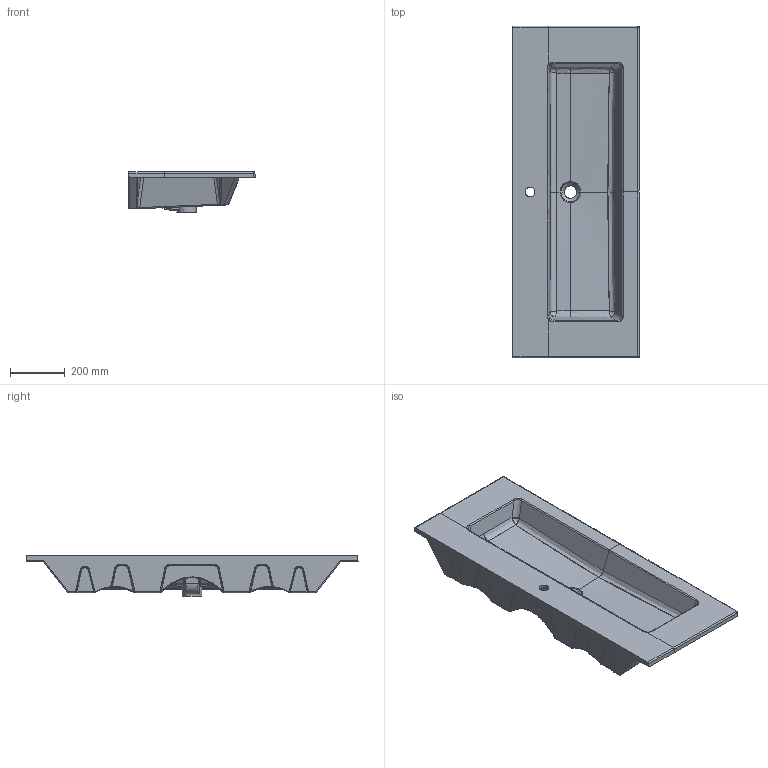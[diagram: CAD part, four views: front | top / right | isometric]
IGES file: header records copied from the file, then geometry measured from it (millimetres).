
Start section: START RECORD GO HERE.
Global section: file name: LAVABO 121x46.igs; native system: DASSAULT SYSTEMES CATIA V5 R19 - www.3ds.com; preprocessor: CATIA Version 5 Release 19 SP 5 ; author: Luca; organization: DESKTOP-V7SON24; date: 20200124.162752; units: millimetre
Bounding box: 460.7 x 1211.4 x 147.5 mm (x, y, z)
Surface area: 1754337.9 mm2 (no closed solid volume)
Topology: 0 solids, 0 shells, 614 faces, 2840 edges, 2802 vertices
Faces by surface type: bspline 402, revolution 179, plane 29, extrusion 4
